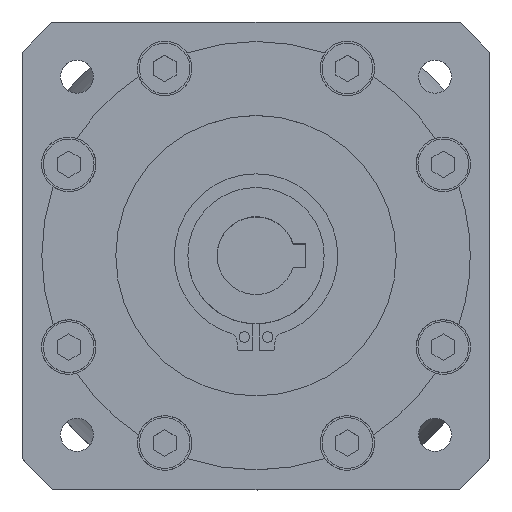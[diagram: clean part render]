
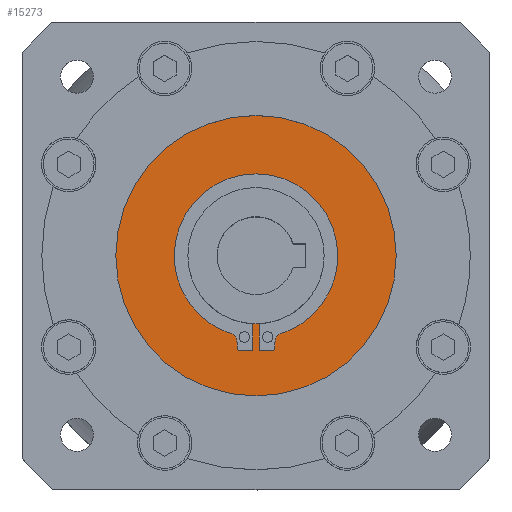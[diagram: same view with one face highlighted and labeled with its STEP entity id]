
A CAD part, top view. The second image highlights one B-rep face of the part: STEP entity #15273.
In plain terms, the highlighted planar face has unit normal (0, 0, 1).
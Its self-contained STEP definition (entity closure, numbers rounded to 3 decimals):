
#1403 = EDGE_CURVE ( 'NONE', #1931, #3575, #39889, .T. ) ;
#1552 = CARTESIAN_POINT ( 'NONE',  ( 0., 0., -2.7 ) ) ;
#1931 = VERTEX_POINT ( 'NONE', #31789 ) ;
#3040 = DIRECTION ( 'NONE',  ( -1., 0., 0. ) ) ;
#3120 = CARTESIAN_POINT ( 'NONE',  ( -7.35, -22.321, -2.7 ) ) ;
#3447 = ORIENTED_EDGE ( 'NONE', *, *, #30802, .F. ) ;
#3575 = VERTEX_POINT ( 'NONE', #39281 ) ;
#3677 = DIRECTION ( 'NONE',  ( -1., 0., 0. ) ) ;
#4166 = CARTESIAN_POINT ( 'NONE',  ( 0.85, -24.279, -2.7 ) ) ;
#4489 = VERTEX_POINT ( 'NONE', #25194 ) ;
#4502 = CARTESIAN_POINT ( 'NONE',  ( -4.85, -23.779, -2.7 ) ) ;
#4736 = DIRECTION ( 'NONE',  ( 0., 0., 1. ) ) ;
#5644 = EDGE_CURVE ( 'NONE', #39273, #37833, #49168, .T. ) ;
#6371 = ORIENTED_EDGE ( 'NONE', *, *, #13796, .F. ) ;
#6423 = AXIS2_PLACEMENT_3D ( 'NONE', #48967, #25995, #3040 ) ;
#6468 = CIRCLE ( 'NONE', #37029, 0.5 ) ;
#6983 = DIRECTION ( 'NONE',  ( -1., 0., 0. ) ) ;
#8107 = EDGE_CURVE ( 'NONE', #8323, #30003, #28099, .T. ) ;
#8323 = VERTEX_POINT ( 'NONE', #8932 ) ;
#8932 = CARTESIAN_POINT ( 'NONE',  ( -4.85, -22.321, -2.7 ) ) ;
#10151 = EDGE_LOOP ( 'NONE', ( #16295, #49617 ) ) ;
#10542 = CARTESIAN_POINT ( 'NONE',  ( 4.85, -23.779, -2.7 ) ) ;
#10884 = EDGE_CURVE ( 'NONE', #37279, #4489, #48063, .T. ) ;
#11025 = CARTESIAN_POINT ( 'NONE',  ( 0.85, -17.479, -2.7 ) ) ;
#11266 = VERTEX_POINT ( 'NONE', #29649 ) ;
#11273 = VERTEX_POINT ( 'NONE', #10542 ) ;
#12528 = VECTOR ( 'NONE', #24841, 1000. ) ;
#12944 = PLANE ( 'NONE',  #30103 ) ;
#13114 = DIRECTION ( 'NONE',  ( 0., 0., -1. ) ) ;
#13122 = CARTESIAN_POINT ( 'NONE',  ( -4.35, -23.779, -2.7 ) ) ;
#13666 = LINE ( 'NONE', #42799, #32881 ) ;
#13796 = EDGE_CURVE ( 'NONE', #19637, #39273, #13666, .T. ) ;
#13803 = VERTEX_POINT ( 'NONE', #35878 ) ;
#14081 = EDGE_CURVE ( 'NONE', #37833, #11273, #6468, .T. ) ;
#14880 = CARTESIAN_POINT ( 'NONE',  ( 6.568, -19.946, -2.7 ) ) ;
#15117 = ORIENTED_EDGE ( 'NONE', *, *, #22703, .F. ) ;
#15273 = ADVANCED_FACE ( 'NONE', ( #18948, #29159 ), #12944, .F. ) ;
#15738 = CARTESIAN_POINT ( 'NONE',  ( -6.568, -19.946, -2.7 ) ) ;
#16295 = ORIENTED_EDGE ( 'NONE', *, *, #36828, .T. ) ;
#17005 = DIRECTION ( 'NONE',  ( -1., 0., 0. ) ) ;
#17136 = CARTESIAN_POINT ( 'NONE',  ( 0., -24.279, -2.7 ) ) ;
#17271 = ORIENTED_EDGE ( 'NONE', *, *, #5644, .F. ) ;
#17419 = ORIENTED_EDGE ( 'NONE', *, *, #30526, .F. ) ;
#17625 = ORIENTED_EDGE ( 'NONE', *, *, #38930, .F. ) ;
#17651 = AXIS2_PLACEMENT_3D ( 'NONE', #27712, #4736, #31577 ) ;
#17701 = DIRECTION ( 'NONE',  ( 0., 1., 0. ) ) ;
#18139 = ORIENTED_EDGE ( 'NONE', *, *, #24381, .F. ) ;
#18380 = CARTESIAN_POINT ( 'NONE',  ( -4.85, 0., -2.7 ) ) ;
#18468 = DIRECTION ( 'NONE',  ( 0., 0., 1. ) ) ;
#18786 = ORIENTED_EDGE ( 'NONE', *, *, #10884, .F. ) ;
#18933 = CIRCLE ( 'NONE', #6423, 17.5 ) ;
#18948 = FACE_BOUND ( 'NONE', #26291, .T. ) ;
#19131 = DIRECTION ( 'NONE',  ( 0., 0., 1. ) ) ;
#19637 = VERTEX_POINT ( 'NONE', #11025 ) ;
#19638 = DIRECTION ( 'NONE',  ( 0., 0., 1. ) ) ;
#19771 = VECTOR ( 'NONE', #22519, 1000. ) ;
#20322 = CIRCLE ( 'NONE', #29415, 36. ) ;
#20905 = CARTESIAN_POINT ( 'NONE',  ( 7.35, -22.321, -2.7 ) ) ;
#21375 = CARTESIAN_POINT ( 'NONE',  ( 4.85, 0., -2.7 ) ) ;
#22243 = DIRECTION ( 'NONE',  ( 0., -1., 0. ) ) ;
#22519 = DIRECTION ( 'NONE',  ( 1., 0., 0. ) ) ;
#22703 = EDGE_CURVE ( 'NONE', #27692, #23363, #39127, .T. ) ;
#23331 = VERTEX_POINT ( 'NONE', #15738 ) ;
#23363 = VERTEX_POINT ( 'NONE', #35174 ) ;
#24381 = EDGE_CURVE ( 'NONE', #23331, #8323, #46216, .T. ) ;
#24764 = DIRECTION ( 'NONE',  ( -1., 0., 0. ) ) ;
#24841 = DIRECTION ( 'NONE',  ( 1., 0., 0. ) ) ;
#24986 = DIRECTION ( 'NONE',  ( 0., 0., 1. ) ) ;
#25047 = CARTESIAN_POINT ( 'NONE',  ( -0.85, 0., -2.7 ) ) ;
#25194 = CARTESIAN_POINT ( 'NONE',  ( 21., 0., -2.7 ) ) ;
#25289 = AXIS2_PLACEMENT_3D ( 'NONE', #32559, #24986, #38878 ) ;
#25995 = DIRECTION ( 'NONE',  ( 0., 0., 1. ) ) ;
#26146 = CIRCLE ( 'NONE', #17651, 21. ) ;
#26291 = EDGE_LOOP ( 'NONE', ( #27149, #48716, #48409, #18139, #3447, #17625, #18786, #32667, #17419, #42051, #17271, #6371, #45733, #15117 ) ) ;
#26635 = DIRECTION ( 'NONE',  ( 0., 0., 1. ) ) ;
#27149 = ORIENTED_EDGE ( 'NONE', *, *, #46706, .F. ) ;
#27571 = CARTESIAN_POINT ( 'NONE',  ( 4.35, -24.279, -2.7 ) ) ;
#27692 = VERTEX_POINT ( 'NONE', #34069 ) ;
#27712 = CARTESIAN_POINT ( 'NONE',  ( 0., 0., -2.7 ) ) ;
#28099 = LINE ( 'NONE', #18380, #32328 ) ;
#28947 = VECTOR ( 'NONE', #48021, 1000. ) ;
#29159 = FACE_OUTER_BOUND ( 'NONE', #10151, .T. ) ;
#29415 = AXIS2_PLACEMENT_3D ( 'NONE', #42124, #19131, #45958 ) ;
#29538 = VERTEX_POINT ( 'NONE', #30831 ) ;
#29649 = CARTESIAN_POINT ( 'NONE',  ( -4.35, -24.279, -2.7 ) ) ;
#29759 = EDGE_CURVE ( 'NONE', #13803, #37279, #47674, .T. ) ;
#29780 = CIRCLE ( 'NONE', #46793, 21. ) ;
#29951 = DIRECTION ( 'NONE',  ( 0., 0., -1. ) ) ;
#30003 = VERTEX_POINT ( 'NONE', #4502 ) ;
#30103 = AXIS2_PLACEMENT_3D ( 'NONE', #1552, #13114, #39959 ) ;
#30299 = VECTOR ( 'NONE', #17701, 1000. ) ;
#30526 = EDGE_CURVE ( 'NONE', #11273, #13803, #40496, .T. ) ;
#30802 = EDGE_CURVE ( 'NONE', #29538, #23331, #26146, .T. ) ;
#30831 = CARTESIAN_POINT ( 'NONE',  ( -21., 0., -2.7 ) ) ;
#31026 = EDGE_CURVE ( 'NONE', #23363, #19637, #18933, .T. ) ;
#31557 = DIRECTION ( 'NONE',  ( 0., -1., 0. ) ) ;
#31577 = DIRECTION ( 'NONE',  ( -1., 0., 0. ) ) ;
#31789 = CARTESIAN_POINT ( 'NONE',  ( -36., 0., -2.7 ) ) ;
#32328 = VECTOR ( 'NONE', #22243, 1000. ) ;
#32559 = CARTESIAN_POINT ( 'NONE',  ( 0., 0., -2.7 ) ) ;
#32667 = ORIENTED_EDGE ( 'NONE', *, *, #29759, .F. ) ;
#32881 = VECTOR ( 'NONE', #31557, 1000. ) ;
#32957 = LINE ( 'NONE', #17136, #12528 ) ;
#34069 = CARTESIAN_POINT ( 'NONE',  ( -0.85, -24.279, -2.7 ) ) ;
#34532 = EDGE_CURVE ( 'NONE', #30003, #11266, #37871, .T. ) ;
#35174 = CARTESIAN_POINT ( 'NONE',  ( -0.85, -17.479, -2.7 ) ) ;
#35878 = CARTESIAN_POINT ( 'NONE',  ( 4.85, -22.321, -2.7 ) ) ;
#36828 = EDGE_CURVE ( 'NONE', #3575, #1931, #20322, .T. ) ;
#36872 = AXIS2_PLACEMENT_3D ( 'NONE', #20905, #47744, #24764 ) ;
#37029 = AXIS2_PLACEMENT_3D ( 'NONE', #49591, #26635, #3677 ) ;
#37279 = VERTEX_POINT ( 'NONE', #14880 ) ;
#37833 = VERTEX_POINT ( 'NONE', #27571 ) ;
#37871 = CIRCLE ( 'NONE', #37952, 0.5 ) ;
#37952 = AXIS2_PLACEMENT_3D ( 'NONE', #13122, #39965, #17005 ) ;
#38878 = DIRECTION ( 'NONE',  ( 1., 0., 0. ) ) ;
#38930 = EDGE_CURVE ( 'NONE', #4489, #29538, #29780, .T. ) ;
#39127 = LINE ( 'NONE', #25047, #28947 ) ;
#39273 = VERTEX_POINT ( 'NONE', #4166 ) ;
#39281 = CARTESIAN_POINT ( 'NONE',  ( 36., 0., -2.7 ) ) ;
#39889 = CIRCLE ( 'NONE', #25289, 36. ) ;
#39959 = DIRECTION ( 'NONE',  ( -1., 0., 0. ) ) ;
#39965 = DIRECTION ( 'NONE',  ( 0., 0., 1. ) ) ;
#40496 = LINE ( 'NONE', #21375, #30299 ) ;
#41444 = CARTESIAN_POINT ( 'NONE',  ( 0., 0., -2.7 ) ) ;
#42051 = ORIENTED_EDGE ( 'NONE', *, *, #14081, .F. ) ;
#42124 = CARTESIAN_POINT ( 'NONE',  ( 0., 0., -2.7 ) ) ;
#42632 = CARTESIAN_POINT ( 'NONE',  ( 0., 0., -2.7 ) ) ;
#42799 = CARTESIAN_POINT ( 'NONE',  ( 0.85, 0., -2.7 ) ) ;
#44030 = AXIS2_PLACEMENT_3D ( 'NONE', #41444, #18468, #45306 ) ;
#44461 = AXIS2_PLACEMENT_3D ( 'NONE', #3120, #29951, #6983 ) ;
#45306 = DIRECTION ( 'NONE',  ( -1., 0., 0. ) ) ;
#45505 = CARTESIAN_POINT ( 'NONE',  ( 0., -24.279, -2.7 ) ) ;
#45733 = ORIENTED_EDGE ( 'NONE', *, *, #31026, .F. ) ;
#45958 = DIRECTION ( 'NONE',  ( 1., 0., 0. ) ) ;
#46216 = CIRCLE ( 'NONE', #44461, 2.5 ) ;
#46456 = DIRECTION ( 'NONE',  ( -1., 0., 0. ) ) ;
#46706 = EDGE_CURVE ( 'NONE', #11266, #27692, #32957, .T. ) ;
#46793 = AXIS2_PLACEMENT_3D ( 'NONE', #42632, #19638, #46456 ) ;
#47674 = CIRCLE ( 'NONE', #36872, 2.5 ) ;
#47744 = DIRECTION ( 'NONE',  ( 0., 0., -1. ) ) ;
#48021 = DIRECTION ( 'NONE',  ( 0., 1., 0. ) ) ;
#48063 = CIRCLE ( 'NONE', #44030, 21. ) ;
#48409 = ORIENTED_EDGE ( 'NONE', *, *, #8107, .F. ) ;
#48716 = ORIENTED_EDGE ( 'NONE', *, *, #34532, .F. ) ;
#48967 = CARTESIAN_POINT ( 'NONE',  ( 0., 0., -2.7 ) ) ;
#49168 = LINE ( 'NONE', #45505, #19771 ) ;
#49591 = CARTESIAN_POINT ( 'NONE',  ( 4.35, -23.779, -2.7 ) ) ;
#49617 = ORIENTED_EDGE ( 'NONE', *, *, #1403, .T. ) ;
